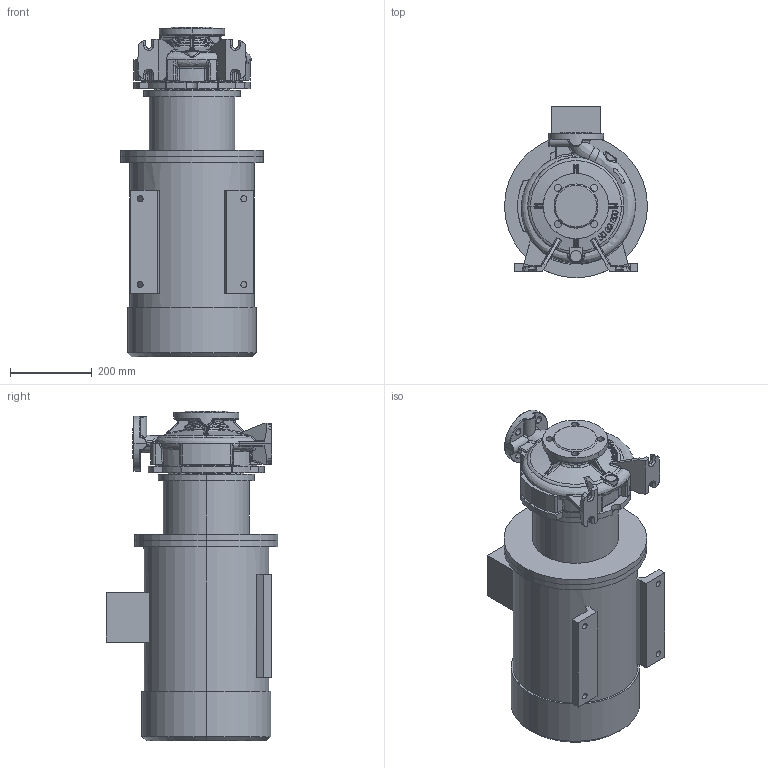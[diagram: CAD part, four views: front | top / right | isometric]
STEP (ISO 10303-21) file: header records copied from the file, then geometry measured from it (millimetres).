
FILE_DESCRIPTION (( 'STEP AP214' ), '1' );
FILE_NAME ('KRM 50-32-125-2-11.STEP', '2026-04-23T09:04:48', ( '' ), ( '' ), 'SwSTEP 2.0', 'SolidWorks 2016', '' );
FILE_SCHEMA (( 'AUTOMOTIVE_DESIGN' ));
Length unit declared in the file: millimetre
Products named in the file (1): KRM 50-32-125-2-11
Bounding box: 350 x 420 x 807.3 mm (x, y, z)
Volume: 52558357.1 mm3; surface area: 1661620.5 mm2
Topology: 4 solids, 4 shells, 942 faces, 2352 edges, 1435 vertices
Faces by surface type: bspline 346, plane 222, cylinder 194, torus 78, cone 75, sphere 27
Entity records: 64661 total; most frequent: CARTESIAN_POINT 34750, ORIENTED_EDGE 4670, DIRECTION 3259, EDGE_CURVE 2335, VERTEX_POINT 1435, AXIS2_PLACEMENT_3D 1341, EDGE_LOOP 1000, UNCERTAINTY_MEASURE_WITH_UNIT 948
